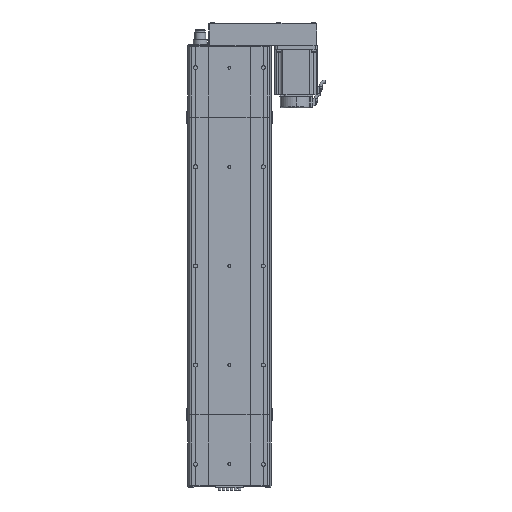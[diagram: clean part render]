
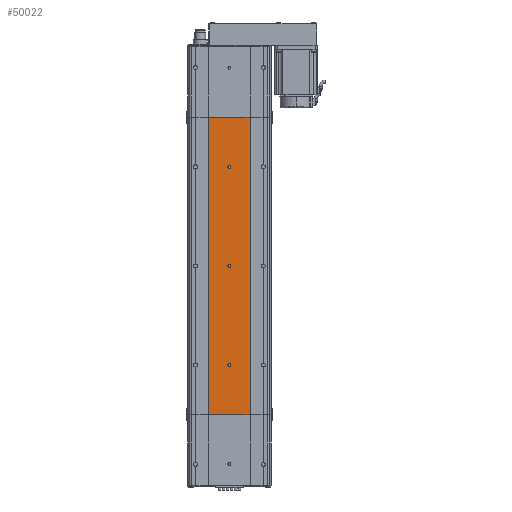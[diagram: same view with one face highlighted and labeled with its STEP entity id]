
A CAD part, front view. The second image highlights one B-rep face of the part: STEP entity #50022.
In plain terms, the highlighted planar face has unit normal (0, -1, 0).
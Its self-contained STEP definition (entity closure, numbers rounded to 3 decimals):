
#49773 = EDGE_CURVE ( 'NONE', #49774, #49828, #143822, .T. ) ;
#49774 = VERTEX_POINT ( 'NONE', #143971 ) ;
#49779 = VERTEX_POINT ( 'NONE', #143844 ) ;
#49818 = VERTEX_POINT ( 'NONE', #143868 ) ;
#49828 = VERTEX_POINT ( 'NONE', #143863 ) ;
#49829 = EDGE_CURVE ( 'NONE', #50016, #49779, #143982, .T. ) ;
#50016 = VERTEX_POINT ( 'NONE', #145700 ) ;
#50017 = EDGE_LOOP ( 'NONE', ( #50262, #50082 ) ) ;
#50022 = ADVANCED_FACE ( 'NONE', ( #145902, #145906, #145843, #145841 ), #145904, .F. ) ;
#50047 = ORIENTED_EDGE ( 'NONE', *, *, #49829, .F. ) ;
#50048 = ORIENTED_EDGE ( 'NONE', *, *, #50203, .F. ) ;
#50082 = ORIENTED_EDGE ( 'NONE', *, *, #49773, .F. ) ;
#50108 = EDGE_LOOP ( 'NONE', ( #50290, #50273, #50196, #50199 ) ) ;
#50194 = EDGE_CURVE ( 'NONE', #50259, #50264, #146658, .T. ) ;
#50195 = EDGE_LOOP ( 'NONE', ( #50048, #50047 ) ) ;
#50196 = ORIENTED_EDGE ( 'NONE', *, *, #50194, .T. ) ;
#50197 = EDGE_CURVE ( 'NONE', #50253, #50264, #146958, .T. ) ;
#50198 = EDGE_CURVE ( 'NONE', #50298, #49818, #146738, .T. ) ;
#50199 = ORIENTED_EDGE ( 'NONE', *, *, #50197, .F. ) ;
#50200 = ORIENTED_EDGE ( 'NONE', *, *, #50198, .F. ) ;
#50203 = EDGE_CURVE ( 'NONE', #49779, #50016, #146659, .T. ) ;
#50253 = VERTEX_POINT ( 'NONE', #147245 ) ;
#50259 = VERTEX_POINT ( 'NONE', #147362 ) ;
#50261 = EDGE_CURVE ( 'NONE', #50292, #50253, #147371, .T. ) ;
#50262 = ORIENTED_EDGE ( 'NONE', *, *, #50291, .F. ) ;
#50263 = EDGE_LOOP ( 'NONE', ( #50200, #50311 ) ) ;
#50264 = VERTEX_POINT ( 'NONE', #147113 ) ;
#50271 = EDGE_CURVE ( 'NONE', #50292, #50259, #147099, .T. ) ;
#50273 = ORIENTED_EDGE ( 'NONE', *, *, #50271, .T. ) ;
#50274 = EDGE_CURVE ( 'NONE', #49818, #50298, #147076, .T. ) ;
#50290 = ORIENTED_EDGE ( 'NONE', *, *, #50261, .F. ) ;
#50291 = EDGE_CURVE ( 'NONE', #49828, #49774, #147792, .T. ) ;
#50292 = VERTEX_POINT ( 'NONE', #147943 ) ;
#50298 = VERTEX_POINT ( 'NONE', #147899 ) ;
#50311 = ORIENTED_EDGE ( 'NONE', *, *, #50274, .F. ) ;
#143822 = CIRCLE ( 'NONE', #143829, 3. ) ;
#143828 = CARTESIAN_POINT ( 'NONE',  ( 0., 0., 300. ) ) ;
#143829 = AXIS2_PLACEMENT_3D ( 'NONE', #143828, #143883, #143882 ) ;
#143844 = CARTESIAN_POINT ( 'NONE',  ( 0., 0., 97. ) ) ;
#143863 = CARTESIAN_POINT ( 'NONE',  ( 0., 0., 297. ) ) ;
#143868 = CARTESIAN_POINT ( 'NONE',  ( 0., 0., 503. ) ) ;
#143870 = AXIS2_PLACEMENT_3D ( 'NONE', #143889, #143990, #143989 ) ;
#143882 = DIRECTION ( 'NONE',  ( 0., 0., -1. ) ) ;
#143883 = DIRECTION ( 'NONE',  ( 0., -1., 0. ) ) ;
#143889 = CARTESIAN_POINT ( 'NONE',  ( 0., 0., 100. ) ) ;
#143971 = CARTESIAN_POINT ( 'NONE',  ( 0., 0., 303. ) ) ;
#143982 = CIRCLE ( 'NONE', #143870, 3. ) ;
#143989 = DIRECTION ( 'NONE',  ( 0., 0., -1. ) ) ;
#143990 = DIRECTION ( 'NONE',  ( 0., -1., 0. ) ) ;
#145700 = CARTESIAN_POINT ( 'NONE',  ( 0., 0., 103. ) ) ;
#145727 = DIRECTION ( 'NONE',  ( 0., 0., 1. ) ) ;
#145753 = AXIS2_PLACEMENT_3D ( 'NONE', #145989, #145845, #145727 ) ;
#145841 = FACE_BOUND ( 'NONE', #50195, .T. ) ;
#145843 = FACE_BOUND ( 'NONE', #50263, .T. ) ;
#145845 = DIRECTION ( 'NONE',  ( 0., 1., 0. ) ) ;
#145902 = FACE_BOUND ( 'NONE', #50017, .T. ) ;
#145904 = PLANE ( 'NONE',  #145753 ) ;
#145906 = FACE_OUTER_BOUND ( 'NONE', #50108, .T. ) ;
#145989 = CARTESIAN_POINT ( 'NONE',  ( 0., 0., 600. ) ) ;
#146616 = DIRECTION ( 'NONE',  ( 0., 0., -1. ) ) ;
#146618 = DIRECTION ( 'NONE',  ( 0., -1., 0. ) ) ;
#146620 = AXIS2_PLACEMENT_3D ( 'NONE', #146959, #146618, #146616 ) ;
#146641 = CARTESIAN_POINT ( 'NONE',  ( 0., 0., 500. ) ) ;
#146658 = LINE ( 'NONE', #146969, #146967 ) ;
#146659 = CIRCLE ( 'NONE', #146620, 3. ) ;
#146738 = CIRCLE ( 'NONE', #146740, 3. ) ;
#146740 = AXIS2_PLACEMENT_3D ( 'NONE', #146641, #146944, #146941 ) ;
#146941 = DIRECTION ( 'NONE',  ( 0., 0., -1. ) ) ;
#146944 = DIRECTION ( 'NONE',  ( 0., -1., 0. ) ) ;
#146954 = DIRECTION ( 'NONE',  ( 0., 0., -1. ) ) ;
#146956 = VECTOR ( 'NONE', #146954, 1000. ) ;
#146957 = CARTESIAN_POINT ( 'NONE',  ( 41.5, 0., 600. ) ) ;
#146958 = LINE ( 'NONE', #146957, #146956 ) ;
#146959 = CARTESIAN_POINT ( 'NONE',  ( 0., 0., 100. ) ) ;
#146965 = DIRECTION ( 'NONE',  ( 1., 0., 0. ) ) ;
#146967 = VECTOR ( 'NONE', #146965, 1000. ) ;
#146969 = CARTESIAN_POINT ( 'NONE',  ( 0., 0., 0. ) ) ;
#147076 = CIRCLE ( 'NONE', #147212, 3. ) ;
#147097 = CARTESIAN_POINT ( 'NONE',  ( -41.5, 0., 600. ) ) ;
#147099 = LINE ( 'NONE', #147097, #147216 ) ;
#147108 = DIRECTION ( 'NONE',  ( 1., 0., 0. ) ) ;
#147109 = VECTOR ( 'NONE', #147108, 1000. ) ;
#147113 = CARTESIAN_POINT ( 'NONE',  ( 41.5, 0., 0. ) ) ;
#147168 = CARTESIAN_POINT ( 'NONE',  ( 0., 0., 600. ) ) ;
#147209 = DIRECTION ( 'NONE',  ( 0., 0., -1. ) ) ;
#147210 = DIRECTION ( 'NONE',  ( 0., -1., 0. ) ) ;
#147211 = CARTESIAN_POINT ( 'NONE',  ( 0., 0., 500. ) ) ;
#147212 = AXIS2_PLACEMENT_3D ( 'NONE', #147211, #147210, #147209 ) ;
#147214 = DIRECTION ( 'NONE',  ( 0., 0., -1. ) ) ;
#147216 = VECTOR ( 'NONE', #147214, 1000. ) ;
#147245 = CARTESIAN_POINT ( 'NONE',  ( 41.5, 0., 600. ) ) ;
#147362 = CARTESIAN_POINT ( 'NONE',  ( -41.5, 0., 0. ) ) ;
#147371 = LINE ( 'NONE', #147168, #147109 ) ;
#147732 = DIRECTION ( 'NONE',  ( 0., -1., 0. ) ) ;
#147792 = CIRCLE ( 'NONE', #147831, 3. ) ;
#147824 = CARTESIAN_POINT ( 'NONE',  ( 0., 0., 300. ) ) ;
#147831 = AXIS2_PLACEMENT_3D ( 'NONE', #147824, #147732, #147925 ) ;
#147899 = CARTESIAN_POINT ( 'NONE',  ( 0., 0., 497. ) ) ;
#147925 = DIRECTION ( 'NONE',  ( 0., 0., -1. ) ) ;
#147943 = CARTESIAN_POINT ( 'NONE',  ( -41.5, 0., 600. ) ) ;
